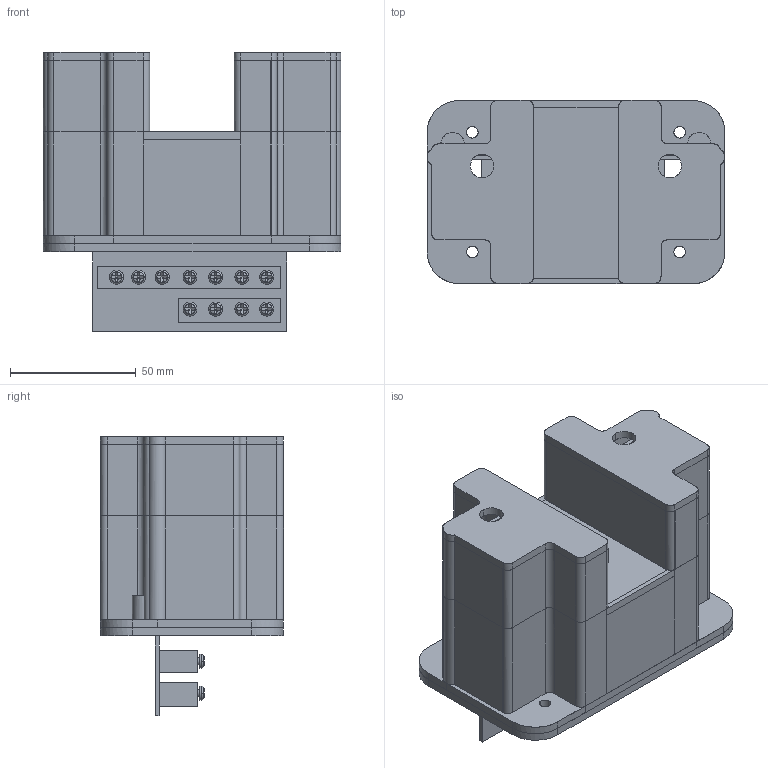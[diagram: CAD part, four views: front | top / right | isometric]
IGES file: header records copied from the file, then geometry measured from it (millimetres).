
Bounding box: 118.62 x 72.93 x 111.12 mm (x, y, z)
Surface area: 79822.5 mm2 (no closed solid volume)
Topology: 0 solids, 0 shells, 681 faces, 3475 edges, 3698 vertices
Faces by surface type: bspline 681
